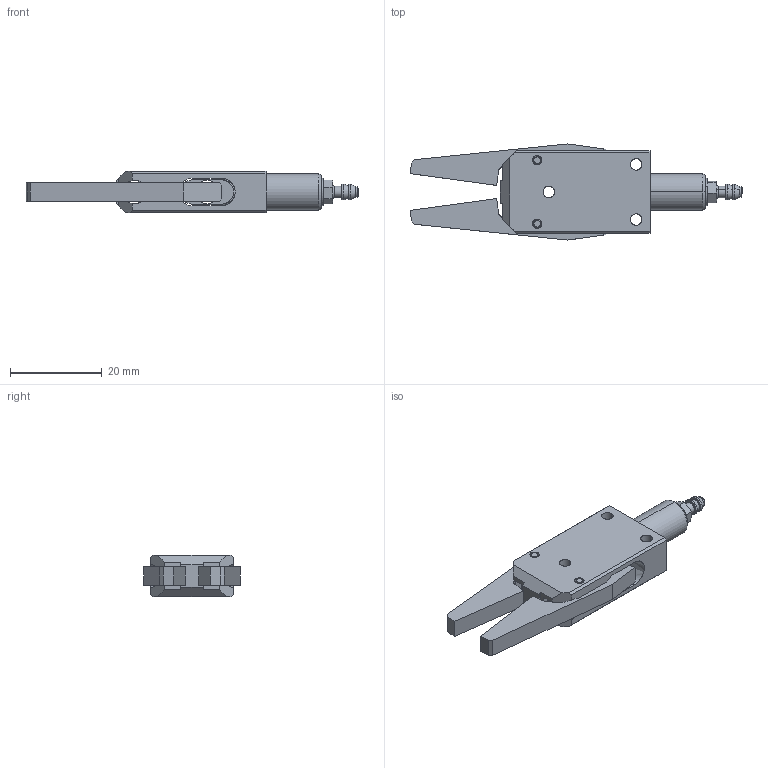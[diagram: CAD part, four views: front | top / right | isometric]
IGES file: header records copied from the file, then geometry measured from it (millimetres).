
Start section: SolidWorks IGES file using analytic representation for surfaces
Global section: file name: E:\2010 カタログ（別冊）\Eins10年4月発売予定新商品データ0311\New CHK-E\CHK-ES1-08-C\022992.IGS; native system: SolidWorks 2006 by SolidWorks Corporation; preprocessor: SolidWorks 2006 by SolidWorks Corporation; author: CAD53; date: 100604.124824; units: millimetre
Bounding box: 72.17 x 20.91 x 9 mm (x, y, z)
Surface area: 4426.7 mm2 (no closed solid volume)
Topology: 0 solids, 0 shells, 125 faces, 1762 edges, 1762 vertices
Faces by surface type: bspline 70, revolution 55
